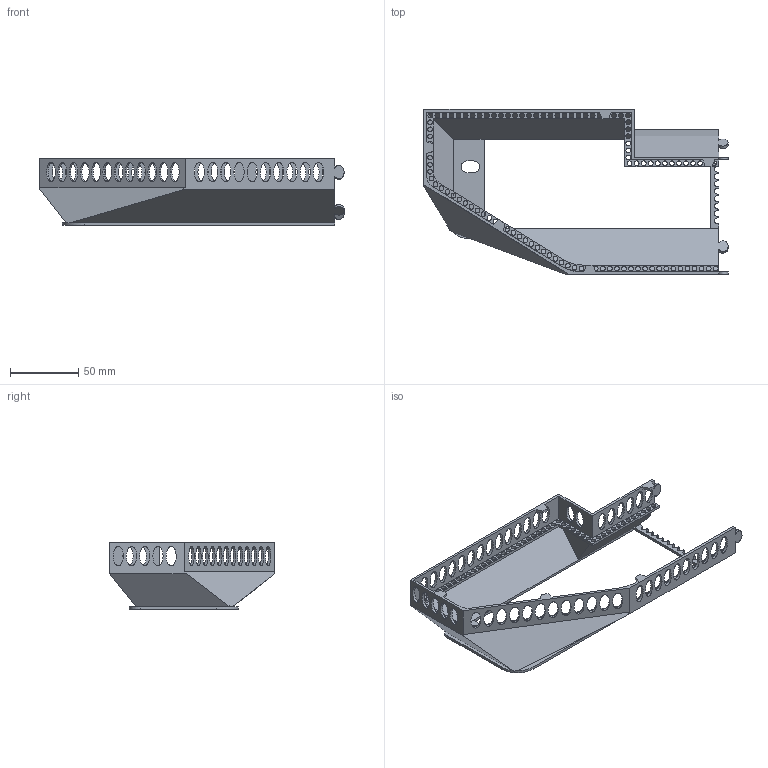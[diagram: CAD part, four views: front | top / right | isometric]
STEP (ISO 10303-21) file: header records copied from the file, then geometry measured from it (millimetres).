
FILE_DESCRIPTION(/* description */ ('Unknown','CAx-IF Rec.Pracs.---Representation and Presentation of Product Manufacturing Information (PMI)---4.0---2014-10-13','CAx-IF Rec.Pracs.---3D Tessellated Geometry---0.4---2014-09-14','2;1'),/* implementation_level */ '2;1');
FILE_NAME(/* name */ 'carcasa7_1',/* time_stamp */ '2026-02-16T08:35:26+01:00',/* author */ ('Unknown'),/* organization */ ('Unknown'),/* preprocessor_version */ 'ST-DEVELOPER v16.7',/* originating_system */ 'Solid Edge',/* authorisation */ 'Unknown');
FILE_SCHEMA (('AP242_MANAGED_MODEL_BASED_3D_ENGINEERING_MIM_LF { 1 0 10303 442 1 1 4 }'));
Length unit declared in the file: millimetre
Products named in the file (1): carcasa7_1
Bounding box: 222.49 x 121 x 49 mm (x, y, z)
Volume: 63180.8 mm3; surface area: 70912.4 mm2
Topology: 1 solids, 1 shells, 256 faces, 870 edges, 611 vertices
Faces by surface type: cylinder 109, plane 83, bspline 64
Full cylindrical faces by diameter (mm): 3.5 x101
Entity records: 9728 total; most frequent: CARTESIAN_POINT 2665, DIRECTION 1345, ORIENTED_EDGE 1230, EDGE_LOOP 705, FACE_BOUND 705, EDGE_CURVE 615, AXIS2_PLACEMENT_3D 541, VERTEX_POINT 506
